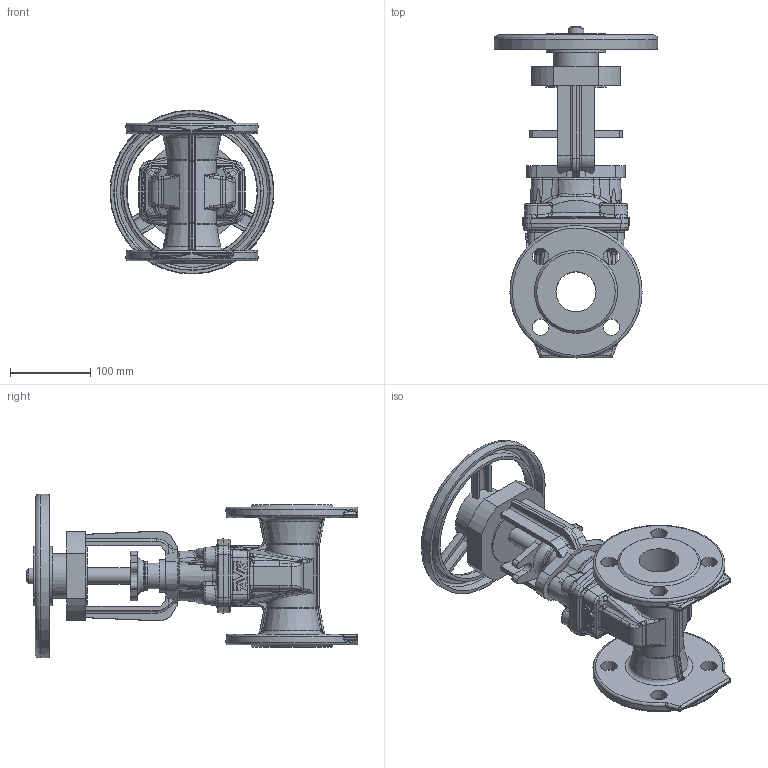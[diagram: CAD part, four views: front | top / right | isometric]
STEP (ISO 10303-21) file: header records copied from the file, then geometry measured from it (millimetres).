
FILE_DESCRIPTION (( 'STEP AP203' ), '1' );
FILE_NAME ('O_21_34_DN050_41XXXXX close_AA0.step', '2020-02-12T08:54:50', ( 'Windows User' ), ( 'AVK' ), 'SwSTEP 2.0', 'SolidWorks 2012', '' );
FILE_SCHEMA (( 'CONFIG_CONTROL_DESIGN' ));
Length unit declared in the file: millimetre
Products named in the file (1): O_21_34_DN050_41XXXXX close_AA0
Bounding box: 204.91 x 414.67 x 204.91 mm (x, y, z)
Volume: 2426104.4 mm3; surface area: 361995.6 mm2
Topology: 1 solids, 1 shells, 804 faces, 1969 edges, 1157 vertices
Faces by surface type: bspline 294, cylinder 184, plane 179, torus 69, cone 66, sphere 12
Full cylindrical faces by diameter (mm): 18 x4, 20 x2, 20.5 x8, 31.9 x1, 37 x1, 40 x1, 50 x1, 55 x1, 74 x1, 165 x2
Entity records: 33181 total; most frequent: CARTESIAN_POINT 16837, ORIENTED_EDGE 3778, DIRECTION 2894, EDGE_CURVE 1889, AXIS2_PLACEMENT_3D 1166, VERTEX_POINT 1139, EDGE_LOOP 884, FACE_OUTER_BOUND 834
